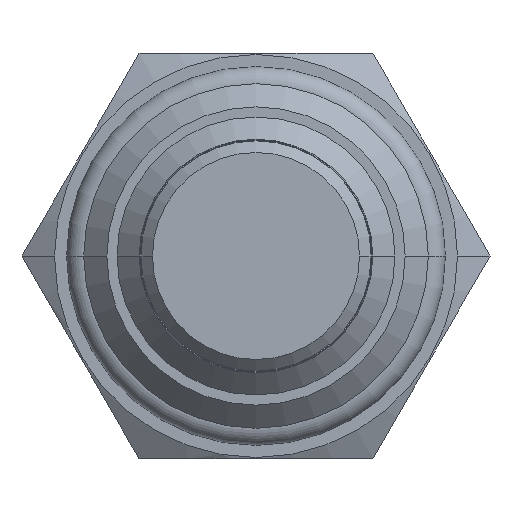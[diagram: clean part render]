
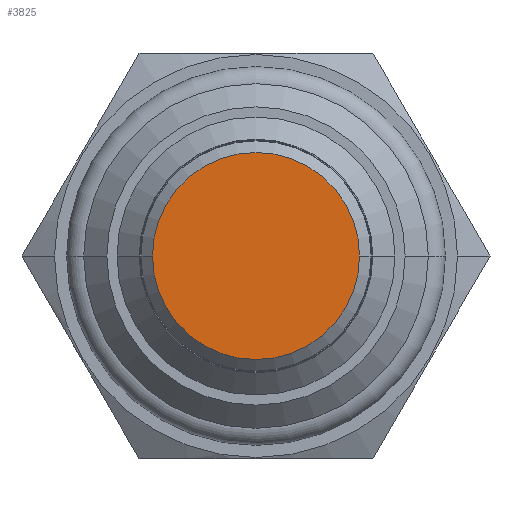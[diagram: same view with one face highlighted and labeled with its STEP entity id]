
A CAD part, front view. The second image highlights one B-rep face of the part: STEP entity #3825.
In plain terms, the highlighted planar face has unit normal (0, -1, 0).
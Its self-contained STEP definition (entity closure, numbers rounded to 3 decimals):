
#2610=CARTESIAN_POINT('',(0.,-22.86,0.));
#2611=DIRECTION('',(0.,-1.,0.));
#2612=DIRECTION('',(-1.,0.,0.));
#2613=AXIS2_PLACEMENT_3D('',#2610,#2611,#2612);
#2615=CARTESIAN_POINT('',(0.,-22.86,0.));
#2616=DIRECTION('',(0.,-1.,0.));
#2617=DIRECTION('',(1.,0.,0.));
#2618=AXIS2_PLACEMENT_3D('',#2615,#2616,#2617);
#2688=CARTESIAN_POINT('',(-5.677,-22.86,0.));
#2689=CARTESIAN_POINT('',(5.677,-22.86,0.));
#2690=VERTEX_POINT('',#2688);
#2691=VERTEX_POINT('',#2689);
#3815=CARTESIAN_POINT('',(0.,-22.86,0.));
#3816=DIRECTION('',(0.,-1.,0.));
#3817=DIRECTION('',(-1.,0.,0.));
#3818=AXIS2_PLACEMENT_3D('',#3815,#3816,#3817);
#3819=PLANE('',#3818);
#3820=ORIENTED_EDGE('',*,*,#3805,.F.);
#3822=ORIENTED_EDGE('',*,*,#3821,.F.);
#3823=EDGE_LOOP('',(#3820,#3822));
#3824=FACE_OUTER_BOUND('',#3823,.F.);
#2614=CIRCLE('',#2613,5.677);
#2619=CIRCLE('',#2618,5.677);
#3805=EDGE_CURVE('',#2690,#2691,#2614,.T.);
#3821=EDGE_CURVE('',#2691,#2690,#2619,.T.);
#3825=ADVANCED_FACE('',(#3824),#3819,.T.);
